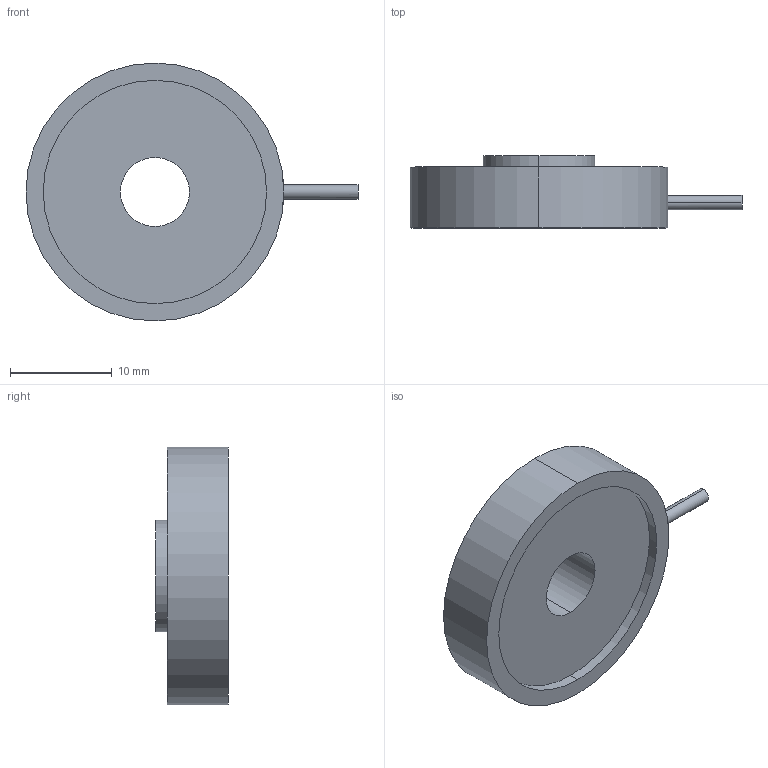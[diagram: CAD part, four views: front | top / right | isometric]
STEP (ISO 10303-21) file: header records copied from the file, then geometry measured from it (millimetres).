
FILE_DESCRIPTION (( 'STEP AP203' ), '1' );
FILE_NAME ('500N.STEP', '2025-10-03T22:40:28', ( '' ), ( '' ), 'SwSTEP 2.0', 'SolidWorks 2024', '' );
FILE_SCHEMA (( 'CONFIG_CONTROL_DESIGN' ));
Length unit declared in the file: millimetre
Products named in the file (1): 500N
Bounding box: 32.7 x 7.1 x 25.4 mm (x, y, z)
Volume: 2341 mm3; surface area: 1732.2 mm2
Topology: 1 solids, 1 shells, 25 faces, 50 edges, 30 vertices
Faces by surface type: cylinder 10, torus 6, plane 5, cone 4
Entity records: 761 total; most frequent: DIRECTION 134, CARTESIAN_POINT 132, ORIENTED_EDGE 100, AXIS2_PLACEMENT_3D 60, EDGE_CURVE 50, CIRCLE 34, VERTEX_POINT 30, EDGE_LOOP 30
